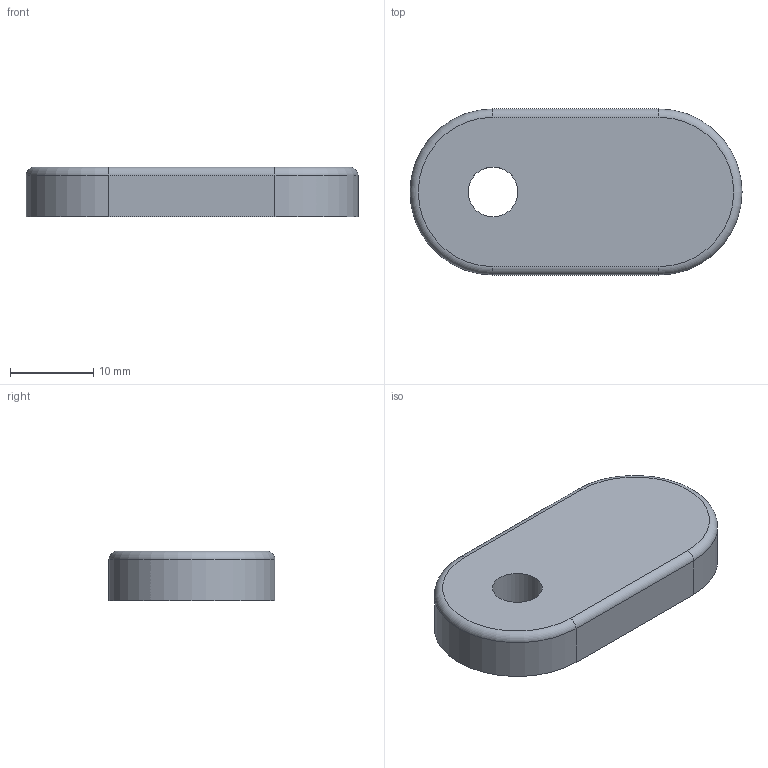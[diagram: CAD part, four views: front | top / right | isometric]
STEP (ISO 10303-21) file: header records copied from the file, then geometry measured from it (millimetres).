
FILE_DESCRIPTION(('Open CASCADE Model'),'2;1');
FILE_NAME('Open CASCADE Shape Model','2026-10-23T21:21:43',('Author'),( 'Open CASCADE'),'Open CASCADE STEP processor 8.0','Open CASCADE 8.0' ,'Unknown');
FILE_SCHEMA(('AUTOMOTIVE_DESIGN { 1 0 10303 214 1 1 1 1 }'));
Length unit declared in the file: millimetre
Products named in the file (1): Open CASCADE STEP translator 8.0 3
Bounding box: 40 x 20 x 6 mm (x, y, z)
Volume: 4093.5 mm3; surface area: 2057.3 mm2
Topology: 1 solids, 1 shells, 11 faces, 23 edges, 14 vertices
Faces by surface type: cylinder 5, plane 4, torus 2
Full cylindrical faces by diameter (mm): 6 x1
Entity records: 610 total; most frequent: DIRECTION 105, CARTESIAN_POINT 95, LINE 51, VECTOR 51, ORIENTED_EDGE 46, PCURVE 46, DEFINITIONAL_REPRESENTATION 46, AXIS2_PLACEMENT_3D 24
